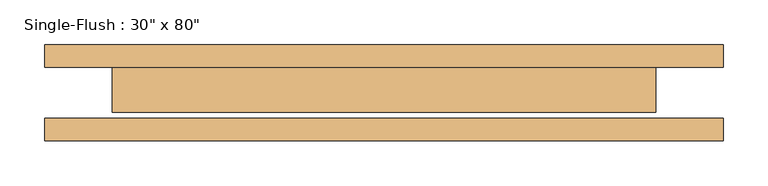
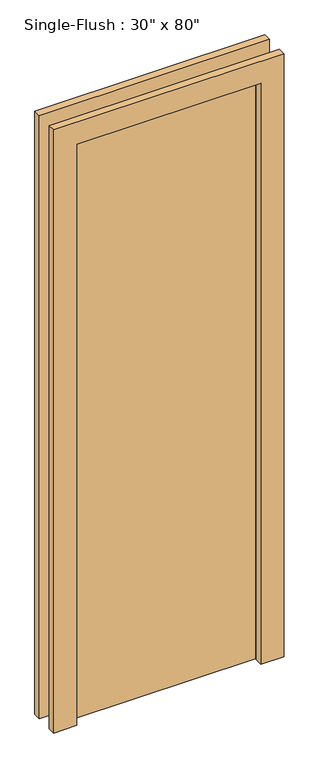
"""IFC4 building model written with IfcOpenShell, lengths in millimetres: door geometry."""

import ifcopenshell
import ifcopenshell.guid

model = None  # the IFC model being written
_history = None  # IfcOwnerHistory: only IFC2X3 demands one
_inside = {}  # id of a spatial element -> (the spatial element, [elements in it])
_under = {}  # id of a project, library or spatial element -> (it, [spatial elements below it])
_declared = {}  # id of a project -> (the project, [libraries it declares])
_typed = {}  # id of a type object -> (the type object, [elements of that type])
_made_of = {}  # id of a material, layer set ... -> (it, [elements and type objects made of it])


def new_model(schema):
    """Start an empty IFC model of exactly this schema.

    Asked for "IFC4X3", IfcOpenShell would pick the latest addendum, in which some entities
    have other attributes; the version numbers below select the first issue.
    IFC2X3 requires an IfcOwnerHistory on every rooted entity: one is made here for all.
    """
    global model, _history
    if schema == "IFC4X3":
        model = ifcopenshell.file(schema_version=(4, 3, 0, 0))
    else:
        model = ifcopenshell.file(schema=schema)
    _inside.clear()
    _under.clear()
    _declared.clear()
    _typed.clear()
    _made_of.clear()
    _history = None
    if model.schema == "IFC2X3":
        org = make("IfcOrganization", Name="unknown")
        user = make(
            "IfcPersonAndOrganization",
            ThePerson=make("IfcPerson", FamilyName="unknown"),
            TheOrganization=org,
        )
        app = make(
            "IfcApplication",
            ApplicationDeveloper=org,
            Version="unknown",
            ApplicationFullName="unknown",
            ApplicationIdentifier="unknown",
        )
        _history = make(
            "IfcOwnerHistory",
            OwningUser=user,
            OwningApplication=app,
            ChangeAction="ADDED",
            CreationDate=0,
        )
    return model


def make(cls, **values):
    """One entity of the class cls with the attributes given. An attribute that is None is left unset."""
    return model.create_entity(
        cls, **{name: value for name, value in values.items() if value is not None}
    )


def rooted(cls, **values):
    """An entity with a GlobalId (a new one), such as an element, a storey or a relation."""
    return make(cls, GlobalId=ifcopenshell.guid.new(), OwnerHistory=_history, **values)


def si_unit(unit_type, name, prefix=None):
    """IfcSIUnit, for example si_unit("LENGTHUNIT", "METRE", prefix="MILLI")."""
    return make("IfcSIUnit", UnitType=unit_type, Prefix=prefix, Name=name)


def assignment(units):
    """IfcUnitAssignment: the units of a project."""
    return None if units is None else make("IfcUnitAssignment", Units=units)


def point(xyz):
    """IfcCartesianPoint."""
    return None if xyz is None else make("IfcCartesianPoint", Coordinates=xyz)


def direction(xyz):
    """IfcDirection."""
    return None if xyz is None else make("IfcDirection", DirectionRatios=xyz)


def frame(location, z_axis=None, x_axis=None):
    """IfcAxis2Placement3D, a coordinate frame: its origin and axes. An axis left out is left unset."""
    return make(
        "IfcAxis2Placement3D",
        Location=point(location),
        Axis=direction(z_axis),
        RefDirection=direction(x_axis),
    )


def origin():
    """The frame at (0, 0, 0) with its axes left unset."""
    return frame((0.0, 0.0, 0.0))


def origin_with_axes():
    """The frame at (0, 0, 0) with the z axis (0, 0, 1) and the x axis (1, 0, 0) written out."""
    return frame((0.0, 0.0, 0.0), z_axis=(0.0, 0.0, 1.0), x_axis=(1.0, 0.0, 0.0))


def place(relative_to, where):
    """IfcLocalPlacement: puts the frame where relative to a parent placement (None: the world)."""
    return make(
        "IfcLocalPlacement", PlacementRelTo=relative_to, RelativePlacement=where
    )


def context(
    kind, dimensions, precision=None, world=None, true_north=None, identifier=None
):
    """IfcGeometricRepresentationContext, for example the 3D "Model" context."""
    return make(
        "IfcGeometricRepresentationContext",
        ContextIdentifier=identifier,
        ContextType=kind,
        CoordinateSpaceDimension=dimensions,
        Precision=precision,
        WorldCoordinateSystem=world,
        TrueNorth=true_north,
    )


def project(units=None, contexts=None):
    """IfcProject with its units and contexts."""
    return rooted(
        "IfcProject",
        Name="project",
        RepresentationContexts=contexts,
        UnitsInContext=assignment(units),
    )


def spatial(cls, under=None, at=None, **own):
    """A site, building, storey or space (cls), placed at a placement, below another one or the project."""
    s = rooted(cls, ObjectPlacement=at, **own)
    if under is not None:
        _under.setdefault(under.id(), (under, []))[1].append(s)
    return s


def polyline(points):
    """IfcPolyline through the points."""
    return make("IfcPolyline", Points=[point(p) for p in points])


def outline(outer, holes=None, kind="AREA"):
    """IfcArbitraryClosedProfileDef: a profile drawn as a closed curve; with holes, ...WithVoids."""
    if holes is None:
        return make("IfcArbitraryClosedProfileDef", ProfileType=kind, OuterCurve=outer)
    return make(
        "IfcArbitraryProfileDefWithVoids",
        ProfileType=kind,
        OuterCurve=outer,
        InnerCurves=holes,
    )


def extrude(swept, where, along, depth):
    """IfcExtrudedAreaSolid: the profile swept, set in the frame where, extruded along a direction by depth."""
    return make(
        "IfcExtrudedAreaSolid",
        SweptArea=swept,
        Position=where,
        ExtrudedDirection=direction(along),
        Depth=depth,
    )


def shape(context_of_items, identifier, shape_type, items):
    """IfcShapeRepresentation: the items that make up one representation, for example the "Body"."""
    return make(
        "IfcShapeRepresentation",
        ContextOfItems=context_of_items,
        RepresentationIdentifier=identifier,
        RepresentationType=shape_type,
        Items=items,
    )


def source(mapping_origin, context_of_items, identifier, shape_type, items):
    """IfcRepresentationMap: a shape defined once, which mapped items show again and again."""
    return make(
        "IfcRepresentationMap",
        MappingOrigin=mapping_origin,
        MappedRepresentation=shape(context_of_items, identifier, shape_type, items),
    )


def transform(
    local_origin,
    x_axis=None,
    y_axis=None,
    z_axis=None,
    scale=None,
    scale2=None,
    scale3=None,
    uniform=True,
):
    """IfcCartesianTransformationOperator3D, or its non-uniform kind. x_axis, y_axis, z_axis: its Axis1, 2, 3."""
    if uniform:
        return make(
            "IfcCartesianTransformationOperator3D",
            Axis1=direction(x_axis),
            Axis2=direction(y_axis),
            LocalOrigin=point(local_origin),
            Scale=scale,
            Axis3=direction(z_axis),
        )
    return make(
        "IfcCartesianTransformationOperator3DnonUniform",
        Axis1=direction(x_axis),
        Axis2=direction(y_axis),
        LocalOrigin=point(local_origin),
        Scale=scale,
        Axis3=direction(z_axis),
        Scale2=scale2,
        Scale3=scale3,
    )


def mapped(mapping_source, mapping_target):
    """IfcMappedItem: shows the shape of a source again, moved by a transform."""
    return make(
        "IfcMappedItem", MappingSource=mapping_source, MappingTarget=mapping_target
    )


def made_of(thing, what):
    """Note that an element or type object is made of a material, layer set ...; save() writes the relation."""
    if what is not None:
        _made_of.setdefault(what.id(), (what, []))[1].append(thing)
    return thing


def element(
    cls,
    number,
    at=None,
    inside=None,
    cuts=None,
    type_object=None,
    material=None,
    context=None,
    identifier="Body",
    shape_type=None,
    held_by="IfcProductDefinitionShape",
    body=None,
    shapes=None,
    **own,
):
    """One element of the class cls, such as IfcWall. Its Tag is "e" and its number.

    at: its placement. inside: the storey or other place that contains it. cuts: it is an
    opening in that element (IfcRelVoidsElement). A single representation is given by context,
    identifier, shape_type and body (its items); several are given by shapes. held_by: the class
    of the entity that holds the representations. save() writes the other relations.
    """
    e = rooted(cls, Tag="e%d" % number, ObjectPlacement=at, **own)
    if body is not None:
        shapes = [shape(context, identifier, shape_type, body)]
    if shapes is not None:
        e.Representation = make(held_by, Representations=shapes)
    if inside is not None:
        _inside.setdefault(inside.id(), (inside, []))[1].append(e)
    if cuts is not None:
        rooted(
            "IfcRelVoidsElement", RelatingBuildingElement=cuts, RelatedOpeningElement=e
        )
    if type_object is not None:
        _typed.setdefault(type_object.id(), (type_object, []))[1].append(e)
    return made_of(e, material)


def aggregate(whole, parts):
    """IfcRelAggregates: a whole, such as a stair, and the parts it consists of."""
    return rooted("IfcRelAggregates", RelatingObject=whole, RelatedObjects=parts)


def save(model, path):
    """Write the relations noted so far, then the file.

    IfcRelAggregates (storeys below a building ...), IfcRelContainedInSpatialStructure (elements
    in a storey), IfcRelDefinesByType, IfcRelAssociatesMaterial and IfcRelDeclares: one each for
    every whole, place, type object, material and project.
    """
    for whole, parts in _under.values():
        aggregate(whole, parts)
    for where, things in _inside.values():
        rooted(
            "IfcRelContainedInSpatialStructure",
            RelatedElements=things,
            RelatingStructure=where,
        )
    for kind, things in _typed.values():
        rooted("IfcRelDefinesByType", RelatedObjects=things, RelatingType=kind)
    for what, things in _made_of.values():
        rooted("IfcRelAssociatesMaterial", RelatedObjects=things, RelatingMaterial=what)
    for by, libraries in _declared.values():
        rooted("IfcRelDeclares", RelatingContext=by, RelatedDefinitions=libraries)
    model.write(path)


def door_4812912e(model_context):
    return source(origin(), model_context, "Body", "SweptSolid", [
        extrude(outline(polyline([(2108.2, -381.0), (0.0, -381.0), (0.0, -304.8), (2032.0, -304.8), (2032.0, 304.8), (0.0, 304.8), (0.0, 381.0), (2108.2, 381.0), (2108.2, -381.0)])), frame((0.0, 28.575, 0.0), z_axis=(0.0, 1.0, 0.0), x_axis=(0.0, 0.0, 1.0)), (0.0, 0.0, 1.0), 25.4),
        extrude(outline(polyline([(2108.2, 381.0), (2108.2, -381.0), (0.0, -381.0), (0.0, -304.8), (2032.0, -304.8), (2032.0, 304.8), (0.0, 304.8), (0.0, 381.0), (2108.2, 381.0)])), frame((0.0, -53.975, 0.0), z_axis=(0.0, 1.0, 0.0), x_axis=(0.0, 0.0, 1.0)), (0.0, 0.0, 1.0), 25.4),
        extrude(outline(polyline([(304.8, -22.225), (-304.8, -22.225), (-304.8, 28.575), (304.8, 28.575), (304.8, -22.225)])), origin_with_axes(), (0.0, 0.0, 1.0), 2032.0),
    ])


if __name__ == "__main__":
    model = new_model("IFC4")
    model_context = context("Model", 3, world=origin())
    ifc_project = project(units=[si_unit("LENGTHUNIT", "METRE", prefix="MILLI")], contexts=[model_context])
    site = spatial("IfcSite", under=ifc_project)
    building = spatial("IfcBuilding", under=site)
    placement = place(None, origin())
    door_shape = door_4812912e(model_context)
    element("IfcDoor", 1, ObjectType="Single-Flush : 30\" x 80\"", at=placement, inside=building, context=model_context, shape_type="MappedRepresentation", body=[
        mapped(door_shape, transform((0.0, 0.0, 0.0), x_axis=(1.0, 0.0, 0.0), y_axis=(0.0, 1.0, 0.0), z_axis=(0.0, 0.0, 1.0))),
    ])
    save(model, "model.ifc")
